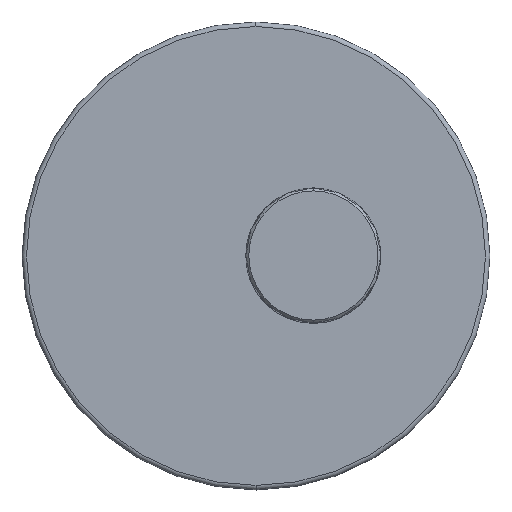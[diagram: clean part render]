
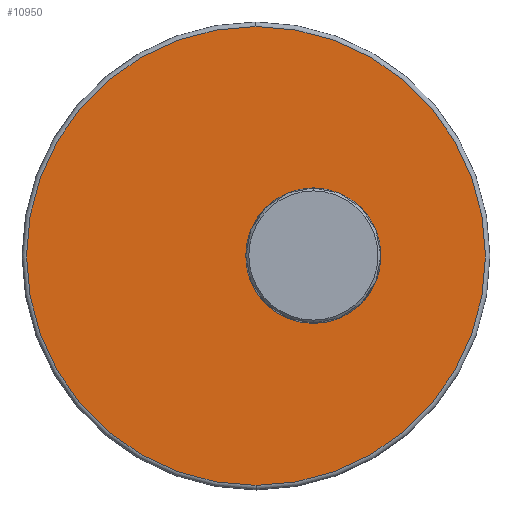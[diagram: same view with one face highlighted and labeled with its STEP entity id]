
A CAD part, top view. The second image highlights one B-rep face of the part: STEP entity #10950.
In plain terms, the highlighted planar face has unit normal (0, 0, 1).
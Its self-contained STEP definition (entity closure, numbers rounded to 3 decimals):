
#10637=CARTESIAN_POINT('',(-19.,0.,30.5));
#10638=DIRECTION('',(0.,0.,-1.));
#10639=DIRECTION('',(0.,1.,0.));
#10640=AXIS2_PLACEMENT_3D('',#10637,#10638,#10639);
#10642=CARTESIAN_POINT('',(-19.,0.,30.5));
#10643=DIRECTION('',(0.,0.,-1.));
#10644=DIRECTION('',(0.,-1.,0.));
#10645=AXIS2_PLACEMENT_3D('',#10642,#10643,#10644);
#10647=CARTESIAN_POINT('',(0.,0.,30.5));
#10648=DIRECTION('',(0.,0.,1.));
#10649=DIRECTION('',(1.,0.,0.));
#10650=AXIS2_PLACEMENT_3D('',#10647,#10648,#10649);
#10652=CARTESIAN_POINT('',(0.,0.,30.5));
#10653=DIRECTION('',(0.,0.,1.));
#10654=DIRECTION('',(-1.,0.,0.));
#10655=AXIS2_PLACEMENT_3D('',#10652,#10653,#10654);
#10771=CARTESIAN_POINT('',(-19.,76.,30.5));
#10772=CARTESIAN_POINT('',(-19.,-76.,30.5));
#10773=VERTEX_POINT('',#10771);
#10774=VERTEX_POINT('',#10772);
#10795=CARTESIAN_POINT('',(22.35,0.,30.5));
#10796=CARTESIAN_POINT('',(-22.35,0.,30.5));
#10797=VERTEX_POINT('',#10795);
#10798=VERTEX_POINT('',#10796);
#10935=CARTESIAN_POINT('',(-19.,0.,30.5));
#10936=DIRECTION('',(0.,0.,1.));
#10937=DIRECTION('',(0.,-1.,0.));
#10938=AXIS2_PLACEMENT_3D('',#10935,#10936,#10937);
#10939=PLANE('',#10938);
#10940=ORIENTED_EDGE('',*,*,#10929,.T.);
#10941=ORIENTED_EDGE('',*,*,#10915,.T.);
#10942=EDGE_LOOP('',(#10940,#10941));
#10943=FACE_OUTER_BOUND('',#10942,.F.);
#10945=ORIENTED_EDGE('',*,*,#10944,.T.);
#10947=ORIENTED_EDGE('',*,*,#10946,.T.);
#10948=EDGE_LOOP('',(#10945,#10947));
#10949=FACE_BOUND('',#10948,.F.);
#10950=ADVANCED_FACE('',(#10943,#10949),#10939,.T.);
#10641=CIRCLE('',#10640,76.);
#10646=CIRCLE('',#10645,76.);
#10651=CIRCLE('',#10650,22.35);
#10656=CIRCLE('',#10655,22.35);
#10915=EDGE_CURVE('',#10774,#10773,#10646,.T.);
#10929=EDGE_CURVE('',#10773,#10774,#10641,.T.);
#10944=EDGE_CURVE('',#10797,#10798,#10651,.T.);
#10946=EDGE_CURVE('',#10798,#10797,#10656,.T.);
